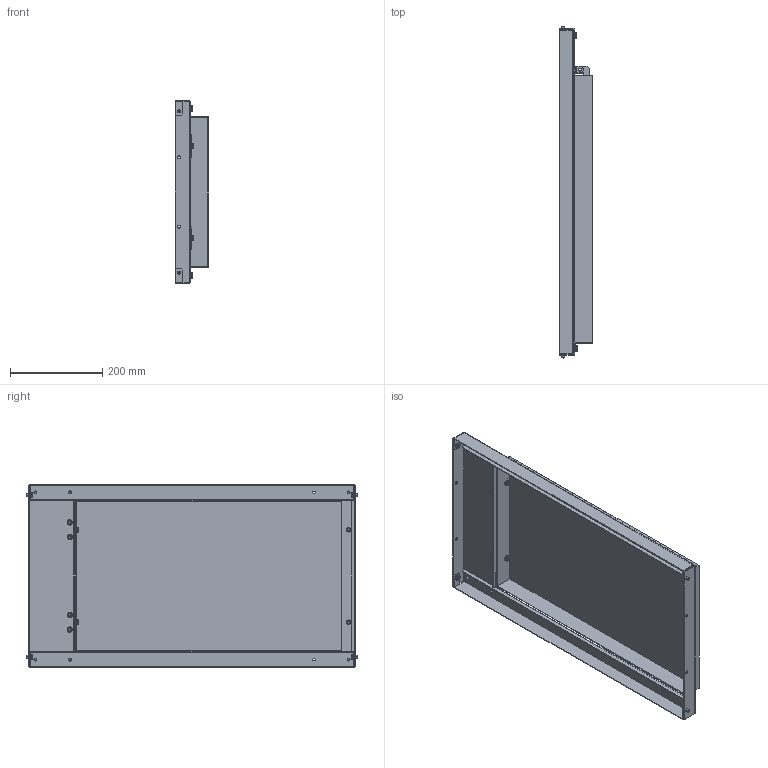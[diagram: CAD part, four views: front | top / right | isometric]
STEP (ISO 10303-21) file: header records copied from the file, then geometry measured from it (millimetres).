
FILE_DESCRIPTION (( 'STEP AP214' ), '1' );
FILE_NAME ('FO-00-MPR-040-080 Ïàíåëü ìîíòàæíàÿ ïîâîðîòíàÿ 400õ800 ìì.STEP', '2025-08-20T07:14:12', ( '' ), ( '' ), 'SwSTEP 2.0', 'SolidWorks 2023', '' );
FILE_SCHEMA (( 'AUTOMOTIVE_DESIGN' ));
Length unit declared in the file: millimetre
Products named in the file (3): FO-00-MPR-040-080 Панель монтажная поворотная 400х800 мм; Панель монтажная поворотная 400x800 мм; Панель монтажная 400x800 мм
Assembly tree (2 placements, depth 2):
  FO-00-MPR-040-080 Панель монтажная поворотная 400х800 мм
    Панель монтажная 400x800 мм
    Панель монтажная поворотная 400x800 мм
Bounding box: 73 x 718.4 x 396 mm (x, y, z)
Volume: 866515.4 mm3; surface area: 907334.2 mm2
Topology: 2 solids, 18 shells, 896 faces, 2242 edges, 1448 vertices
Faces by surface type: cylinder 458, plane 290, cone 76, torus 72
Entity records: 27634 total; most frequent: DIRECTION 5176, CARTESIAN_POINT 4939, ORIENTED_EDGE 4484, EDGE_CURVE 2242, AXIS2_PLACEMENT_3D 2049, VERTEX_POINT 1448, CIRCLE 1148, VECTOR 1078
